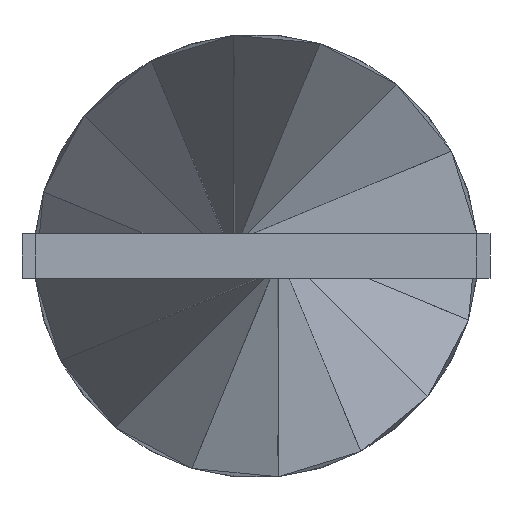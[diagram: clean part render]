
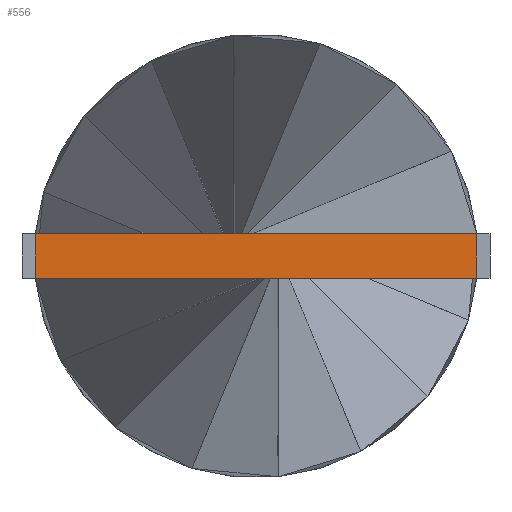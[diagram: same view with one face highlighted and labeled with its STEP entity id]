
A CAD part, left-side view. The second image highlights one B-rep face of the part: STEP entity #556.
In plain terms, the highlighted planar face has unit normal (-1, 0, 0).
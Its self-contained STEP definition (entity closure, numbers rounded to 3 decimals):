
#556 = ADVANCED_FACE( '', ( #1106 ), #1107, .F. );
#1106 = FACE_OUTER_BOUND( '', #2767, .T. );
#1107 = PLANE( '', #2768 );
#2767 = EDGE_LOOP( '', ( #3723, #3724, #3725, #3726 ) );
#2768 = AXIS2_PLACEMENT_3D( '', #3727, #3728, #3729 );
#3723 = ORIENTED_EDGE( '', *, *, #3791, .F. );
#3724 = ORIENTED_EDGE( '', *, *, #3931, .F. );
#3725 = ORIENTED_EDGE( '', *, *, #3843, .F. );
#3726 = ORIENTED_EDGE( '', *, *, #3786, .F. );
#3727 = CARTESIAN_POINT( '', ( -170., 0., 0. ) );
#3728 = DIRECTION( '', ( 1., 0., 0. ) );
#3729 = DIRECTION( '', ( 0., 0., -1. ) );
#3786 = EDGE_CURVE( '', #4367, #4369, #4370, .T. );
#3791 = EDGE_CURVE( '', #4375, #4367, #4377, .T. );
#3843 = EDGE_CURVE( '', #4369, #4466, #4467, .T. );
#3931 = EDGE_CURVE( '', #4466, #4375, #4597, .T. );
#4367 = VERTEX_POINT( '', #5180 );
#4369 = VERTEX_POINT( '', #5183 );
#4370 = LINE( '', #5184, #5185 );
#4375 = VERTEX_POINT( '', #5194 );
#4377 = LINE( '', #5197, #5198 );
#4466 = VERTEX_POINT( '', #5363 );
#4467 = LINE( '', #5364, #5365 );
#4597 = LINE( '', #5623, #5624 );
#5180 = CARTESIAN_POINT( '', ( -170., -5., 0.5 ) );
#5183 = CARTESIAN_POINT( '', ( -170., -5., -0.5 ) );
#5184 = CARTESIAN_POINT( '', ( -170., -5., 0.5 ) );
#5185 = VECTOR( '', #6420, 1000. );
#5194 = CARTESIAN_POINT( '', ( -170., 5., 0.5 ) );
#5197 = CARTESIAN_POINT( '', ( -170., 5., 0.5 ) );
#5198 = VECTOR( '', #6423, 1000. );
#5363 = CARTESIAN_POINT( '', ( -170., 5., -0.5 ) );
#5364 = CARTESIAN_POINT( '', ( -170., -5., -0.5 ) );
#5365 = VECTOR( '', #6428, 1000. );
#5623 = CARTESIAN_POINT( '', ( -170., 5., -0.5 ) );
#5624 = VECTOR( '', #6434, 1000. );
#6420 = DIRECTION( '', ( 0., 0., -1. ) );
#6423 = DIRECTION( '', ( 0., -1., 0. ) );
#6428 = DIRECTION( '', ( 0., 1., 0. ) );
#6434 = DIRECTION( '', ( 0., 0., 1. ) );
